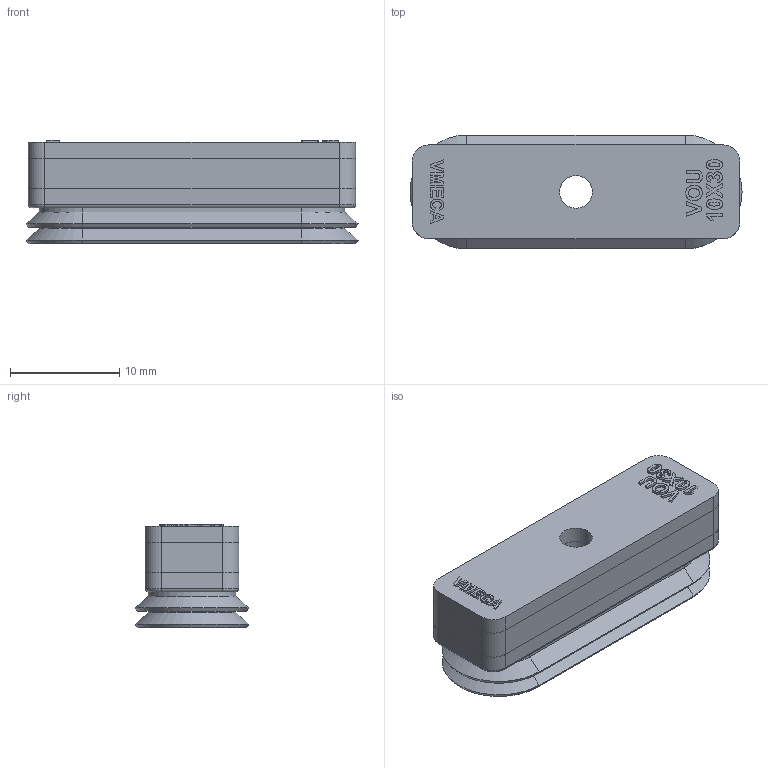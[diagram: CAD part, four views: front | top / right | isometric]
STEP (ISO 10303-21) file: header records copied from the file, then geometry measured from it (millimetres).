
FILE_DESCRIPTION( ( 'Unknown' ), '1' );
FILE_NAME( 'C:/Documents and Settings/Leeho/官帕 拳搁/VOU 10X30.stp', 'Unknown', ( 'Unknown' ), ( 'Unknown' ), 'PSStep 10.0', 'Unknown', ' ' );
FILE_SCHEMA( ( 'automotive_design' ) );
Length unit declared in the file: millimetre
Products named in the file (2): Assem1; 10X30_STP
Bounding box: 30.42 x 10.42 x 9.5 mm (x, y, z)
Surface area: 2493.6 mm2
Topology: 2 solids, 2 shells, 280 faces, 686 edges, 444 vertices
Faces by surface type: extrusion 180, plane 62, cylinder 22, torus 8, cone 8
Full cylindrical faces by diameter (mm): 3 x2
Entity records: 6084 total; most frequent: CARTESIAN_POINT 1835, ORIENTED_EDGE 672, DIRECTION 454, EDGE_CURVE 336, VECTOR 290, VERTEX_POINT 222, LINE 200, B_SPLINE_CURVE_WITH_KNOTS 196
